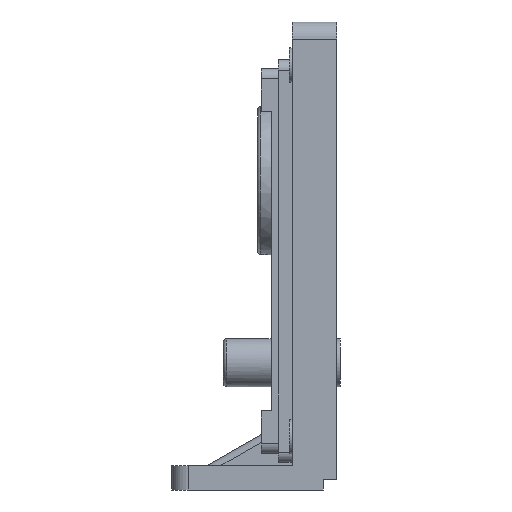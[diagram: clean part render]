
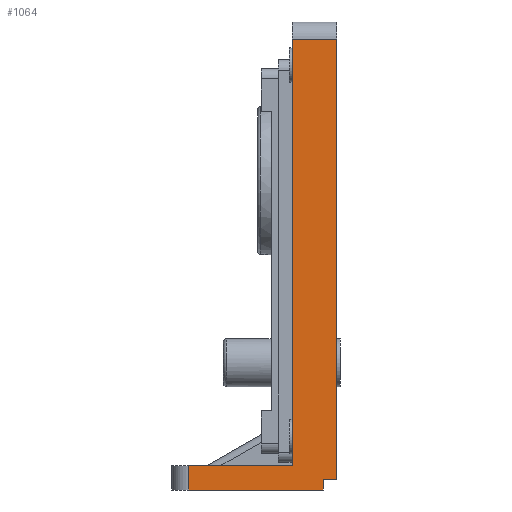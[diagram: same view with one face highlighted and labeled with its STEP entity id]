
A CAD part, left-side view. The second image highlights one B-rep face of the part: STEP entity #1064.
In plain terms, the highlighted planar face has unit normal (-1, 0, 0).
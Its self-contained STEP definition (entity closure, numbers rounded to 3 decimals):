
#395 = EDGE_CURVE ( 'NONE', #3772, #3338, #3569, .T. ) ;
#564 = CARTESIAN_POINT ( 'NONE',  ( -108., 13., -62.5 ) ) ;
#626 = CARTESIAN_POINT ( 'NONE',  ( -108., 43., -62.5 ) ) ;
#733 = VECTOR ( 'NONE', #3750, 1000. ) ;
#819 = EDGE_CURVE ( 'NONE', #2081, #2948, #1857, .T. ) ;
#1064 = ADVANCED_FACE ( 'NONE', ( #9918 ), #7446, .F. ) ;
#1077 = VECTOR ( 'NONE', #10634, 1000. ) ;
#1297 = CARTESIAN_POINT ( 'NONE',  ( -108., 43., -69.5 ) ) ;
#1687 = ORIENTED_EDGE ( 'NONE', *, *, #9860, .F. ) ;
#1857 = LINE ( 'NONE', #2729, #7945 ) ;
#2081 = VERTEX_POINT ( 'NONE', #9643 ) ;
#2160 = DIRECTION ( 'NONE',  ( 0., 0., 1. ) ) ;
#2599 = VERTEX_POINT ( 'NONE', #564 ) ;
#2687 = CARTESIAN_POINT ( 'NONE',  ( -108., 0., -66.5 ) ) ;
#2729 = CARTESIAN_POINT ( 'NONE',  ( -108., 4., -62.5 ) ) ;
#2816 = EDGE_LOOP ( 'NONE', ( #8312, #4161, #3814, #3425, #4163, #1687, #3953, #8418 ) ) ;
#2827 = DIRECTION ( 'NONE',  ( 0., -1., 0. ) ) ;
#2896 = CARTESIAN_POINT ( 'NONE',  ( -108., 13., -66.5 ) ) ;
#2948 = VERTEX_POINT ( 'NONE', #8070 ) ;
#2995 = CARTESIAN_POINT ( 'NONE',  ( -108., 4., -62.5 ) ) ;
#3338 = VERTEX_POINT ( 'NONE', #1297 ) ;
#3356 = VECTOR ( 'NONE', #4611, 1000. ) ;
#3425 = ORIENTED_EDGE ( 'NONE', *, *, #6023, .T. ) ;
#3569 = LINE ( 'NONE', #6921, #3356 ) ;
#3750 = DIRECTION ( 'NONE',  ( 0., 1., 0. ) ) ;
#3772 = VERTEX_POINT ( 'NONE', #626 ) ;
#3814 = ORIENTED_EDGE ( 'NONE', *, *, #6058, .F. ) ;
#3837 = CARTESIAN_POINT ( 'NONE',  ( -108., 0., -66.5 ) ) ;
#3953 = ORIENTED_EDGE ( 'NONE', *, *, #819, .F. ) ;
#4161 = ORIENTED_EDGE ( 'NONE', *, *, #9234, .T. ) ;
#4163 = ORIENTED_EDGE ( 'NONE', *, *, #395, .T. ) ;
#4487 = VERTEX_POINT ( 'NONE', #2687 ) ;
#4522 = LINE ( 'NONE', #2995, #733 ) ;
#4577 = CARTESIAN_POINT ( 'NONE',  ( -108., 13., -66.5 ) ) ;
#4611 = DIRECTION ( 'NONE',  ( 0., 0., -1. ) ) ;
#4676 = VECTOR ( 'NONE', #2827, 1000. ) ;
#4713 = VECTOR ( 'NONE', #10750, 1000. ) ;
#4737 = CARTESIAN_POINT ( 'NONE',  ( -108., 13., 61.5 ) ) ;
#5253 = DIRECTION ( 'NONE',  ( 0., 0., -1. ) ) ;
#5301 = VECTOR ( 'NONE', #7678, 1000. ) ;
#5304 = LINE ( 'NONE', #7900, #5301 ) ;
#5623 = EDGE_CURVE ( 'NONE', #4487, #5715, #9627, .T. ) ;
#5715 = VERTEX_POINT ( 'NONE', #5724 ) ;
#5724 = CARTESIAN_POINT ( 'NONE',  ( -108., 0., 61.5 ) ) ;
#5786 = DIRECTION ( 'NONE',  ( 0., 0., -1. ) ) ;
#6023 = EDGE_CURVE ( 'NONE', #2599, #3772, #4522, .T. ) ;
#6058 = EDGE_CURVE ( 'NONE', #2599, #10326, #6992, .T. ) ;
#6921 = CARTESIAN_POINT ( 'NONE',  ( -108., 43., -62.5 ) ) ;
#6992 = LINE ( 'NONE', #4577, #1077 ) ;
#7056 = EDGE_CURVE ( 'NONE', #2081, #4487, #9710, .T. ) ;
#7342 = CARTESIAN_POINT ( 'NONE',  ( -108., 13., 61.5 ) ) ;
#7446 = PLANE ( 'NONE',  #8136 ) ;
#7678 = DIRECTION ( 'NONE',  ( 0., 1., 0. ) ) ;
#7900 = CARTESIAN_POINT ( 'NONE',  ( -108., 4., -69.5 ) ) ;
#7945 = VECTOR ( 'NONE', #5253, 1000. ) ;
#8070 = CARTESIAN_POINT ( 'NONE',  ( -108., 4., -69.5 ) ) ;
#8136 = AXIS2_PLACEMENT_3D ( 'NONE', #10695, #9814, #5786 ) ;
#8312 = ORIENTED_EDGE ( 'NONE', *, *, #5623, .T. ) ;
#8418 = ORIENTED_EDGE ( 'NONE', *, *, #7056, .T. ) ;
#9183 = VECTOR ( 'NONE', #2160, 1000. ) ;
#9234 = EDGE_CURVE ( 'NONE', #5715, #10326, #9706, .T. ) ;
#9627 = LINE ( 'NONE', #3837, #9183 ) ;
#9643 = CARTESIAN_POINT ( 'NONE',  ( -108., 4., -66.5 ) ) ;
#9706 = LINE ( 'NONE', #7342, #4713 ) ;
#9710 = LINE ( 'NONE', #2896, #4676 ) ;
#9814 = DIRECTION ( 'NONE',  ( 1., 0., 0. ) ) ;
#9860 = EDGE_CURVE ( 'NONE', #2948, #3338, #5304, .T. ) ;
#9918 = FACE_OUTER_BOUND ( 'NONE', #2816, .T. ) ;
#10326 = VERTEX_POINT ( 'NONE', #4737 ) ;
#10634 = DIRECTION ( 'NONE',  ( 0., 0., 1. ) ) ;
#10695 = CARTESIAN_POINT ( 'NONE',  ( -108., 13., -66.5 ) ) ;
#10750 = DIRECTION ( 'NONE',  ( 0., 1., 0. ) ) ;
